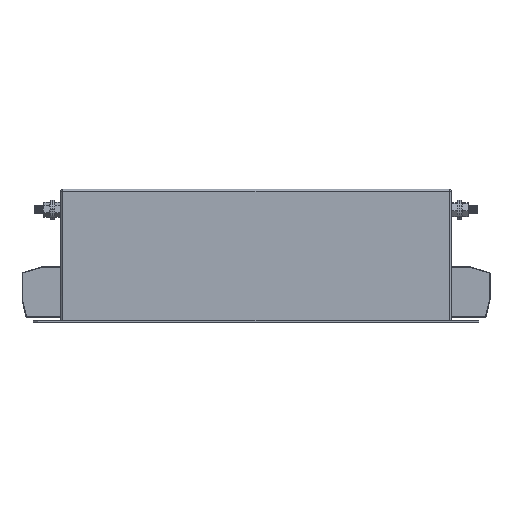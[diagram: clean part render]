
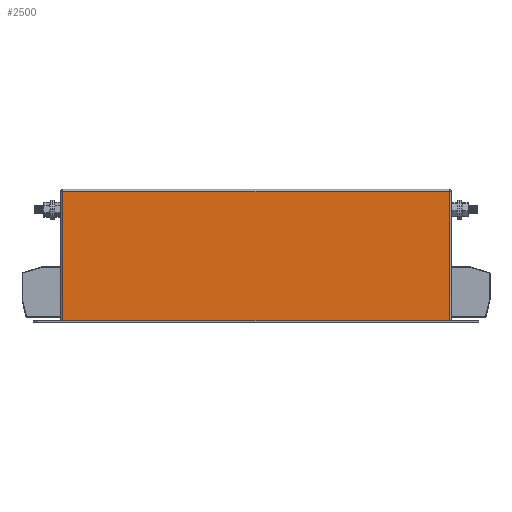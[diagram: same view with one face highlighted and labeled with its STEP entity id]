
A CAD part, top view. The second image highlights one B-rep face of the part: STEP entity #2500.
In plain terms, the highlighted planar face has unit normal (0, 0, 1).
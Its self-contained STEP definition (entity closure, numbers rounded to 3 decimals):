
#2419 = EDGE_CURVE ( 'NONE', #2420, #2421, #9308, .T. ) ;
#2420 = VERTEX_POINT ( 'NONE', #9304 ) ;
#2421 = VERTEX_POINT ( 'NONE', #9303 ) ;
#2480 = EDGE_CURVE ( 'NONE', #2506, #2420, #9414, .T. ) ;
#2481 = ORIENTED_EDGE ( 'NONE', *, *, #2419, .T. ) ;
#2482 = ORIENTED_EDGE ( 'NONE', *, *, #2483, .T. ) ;
#2483 = EDGE_CURVE ( 'NONE', #2421, #2505, #9410, .T. ) ;
#2500 = ADVANCED_FACE ( 'NONE', ( #9441 ), #9440, .F. ) ;
#2501 = EDGE_LOOP ( 'NONE', ( #2502, #2560, #2481, #2482 ) ) ;
#2502 = ORIENTED_EDGE ( 'NONE', *, *, #2503, .T. ) ;
#2503 = EDGE_CURVE ( 'NONE', #2505, #2506, #9435, .T. ) ;
#2505 = VERTEX_POINT ( 'NONE', #9431 ) ;
#2506 = VERTEX_POINT ( 'NONE', #9430 ) ;
#2560 = ORIENTED_EDGE ( 'NONE', *, *, #2480, .T. ) ;
#9303 = CARTESIAN_POINT ( 'NONE',  ( 406., 1.5, 198.5 ) ) ;
#9304 = CARTESIAN_POINT ( 'NONE',  ( 29., 1.5, 198.5 ) ) ;
#9305 = DIRECTION ( 'NONE',  ( 1., 0., 0. ) ) ;
#9306 = VECTOR ( 'NONE', #9305, 1000. ) ;
#9307 = CARTESIAN_POINT ( 'NONE',  ( 27., 1.5, 198.5 ) ) ;
#9308 = LINE ( 'NONE', #9307, #9306 ) ;
#9407 = DIRECTION ( 'NONE',  ( 0., 1., 0. ) ) ;
#9408 = VECTOR ( 'NONE', #9407, 1000. ) ;
#9409 = CARTESIAN_POINT ( 'NONE',  ( 406., 130., 198.5 ) ) ;
#9410 = LINE ( 'NONE', #9409, #9408 ) ;
#9411 = DIRECTION ( 'NONE',  ( 0., -1., 0. ) ) ;
#9412 = VECTOR ( 'NONE', #9411, 1000. ) ;
#9413 = CARTESIAN_POINT ( 'NONE',  ( 29., 130., 198.5 ) ) ;
#9414 = LINE ( 'NONE', #9413, #9412 ) ;
#9430 = CARTESIAN_POINT ( 'NONE',  ( 29., 128., 198.5 ) ) ;
#9431 = CARTESIAN_POINT ( 'NONE',  ( 406., 128., 198.5 ) ) ;
#9432 = DIRECTION ( 'NONE',  ( -1., 0., 0. ) ) ;
#9433 = VECTOR ( 'NONE', #9432, 1000. ) ;
#9434 = CARTESIAN_POINT ( 'NONE',  ( 27., 128., 198.5 ) ) ;
#9435 = LINE ( 'NONE', #9434, #9433 ) ;
#9436 = DIRECTION ( 'NONE',  ( -1., 0., 0. ) ) ;
#9437 = DIRECTION ( 'NONE',  ( 0., 0., -1. ) ) ;
#9438 = CARTESIAN_POINT ( 'NONE',  ( 27., 130., 198.5 ) ) ;
#9439 = AXIS2_PLACEMENT_3D ( 'NONE', #9438, #9437, #9436 ) ;
#9440 = PLANE ( 'NONE',  #9439 ) ;
#9441 = FACE_OUTER_BOUND ( 'NONE', #2501, .T. ) ;
